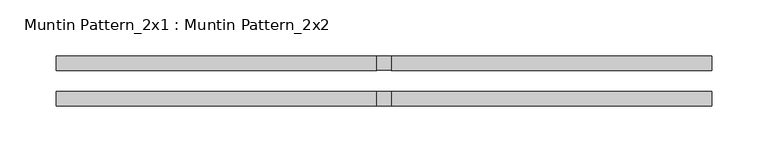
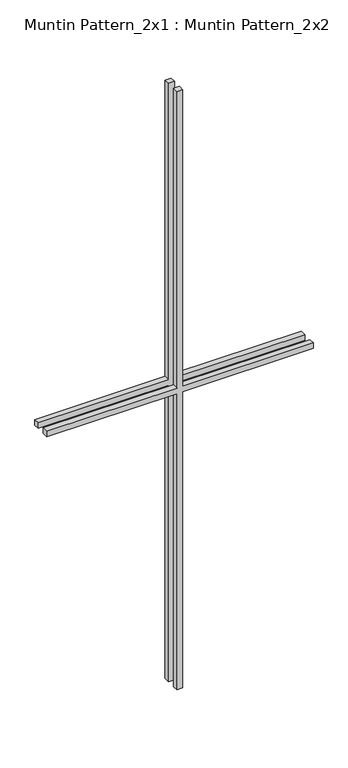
"""IFC4 building model written with IfcOpenShell, lengths in millimetres: proxy geometry, Muntin Pattern_2x1 : Muntin Pattern_2x2."""

from ifc_helpers import new_model, si_unit, frame, origin, place, context, project, spatial, polyline, outline, extrude, source, transform, mapped, element, save


def muntin_pattern_2x1_muntin_pattern_2x2_6849e3ed(model_context):
    return source(origin(), model_context, "Body", "SweptSolid", [
        extrude(outline(polyline([(698.5, -6.35), (698.5, -292.1), (685.8, -292.1), (685.8, -6.35), (0.0, -6.35), (0.0, 6.35), (685.8, 6.35), (685.8, 292.1), (698.5, 292.1), (698.5, 6.35), (1384.3, 6.35), (1384.3, -6.35), (698.5, -6.35)])), frame((0.0, 9.525, 0.0), z_axis=(0.0, 1.0, 0.0), x_axis=(0.0, 0.0, 1.0)), (0.0, 0.0, 1.0), 12.7),
        extrude(outline(polyline([(698.5, -6.35), (698.5, -292.1), (685.8, -292.1), (685.8, -6.35), (0.0, -6.35), (0.0, 6.35), (685.8, 6.35), (685.8, 292.1), (698.5, 292.1), (698.5, 6.35), (1384.3, 6.35), (1384.3, -6.35), (698.5, -6.35)])), frame((0.0, -22.225, 0.0), z_axis=(0.0, 1.0, 0.0), x_axis=(0.0, 0.0, 1.0)), (0.0, 0.0, 1.0), 12.7),
    ])


if __name__ == "__main__":
    model = new_model("IFC4")
    model_context = context("Model", 3, world=origin())
    ifc_project = project(units=[si_unit("LENGTHUNIT", "METRE", prefix="MILLI")], contexts=[model_context])
    site = spatial("IfcSite", under=ifc_project)
    building = spatial("IfcBuilding", under=site)
    placement = place(None, origin())
    muntin_pattern_2x1_muntin_pattern_2x2_shape = muntin_pattern_2x1_muntin_pattern_2x2_6849e3ed(model_context)
    element("IfcBuildingElementProxy", 1, Name="Muntin Pattern_2x1 : Muntin Pattern_2x2", ObjectType="Muntin Pattern_2x1 : Muntin Pattern_2x2", at=placement, inside=building, context=model_context, shape_type="MappedRepresentation", body=[
        mapped(muntin_pattern_2x1_muntin_pattern_2x2_shape, transform((0.0, 0.0, 0.0), x_axis=(1.0, 0.0, 0.0), y_axis=(0.0, 1.0, 0.0), z_axis=(0.0, 0.0, 1.0))),
    ])
    save(model, "model.ifc")
